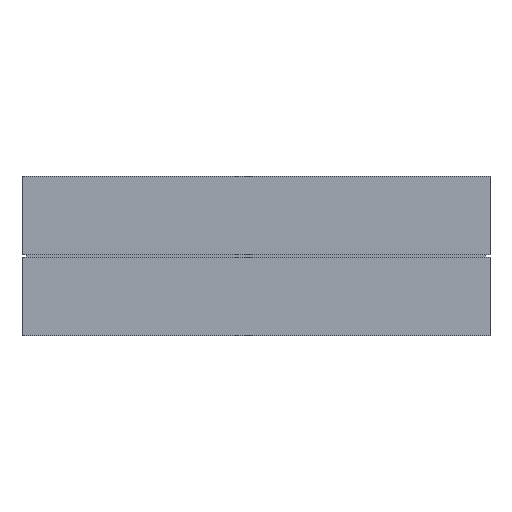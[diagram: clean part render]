
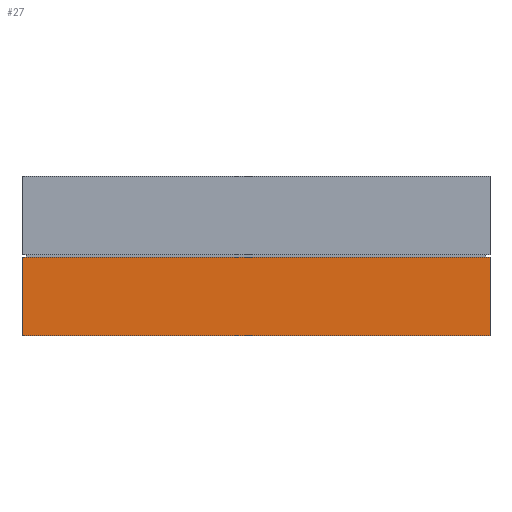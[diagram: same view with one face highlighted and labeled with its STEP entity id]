
A CAD part, front view. The second image highlights one B-rep face of the part: STEP entity #27.
In plain terms, the highlighted planar face has unit normal (0, -1, 0).
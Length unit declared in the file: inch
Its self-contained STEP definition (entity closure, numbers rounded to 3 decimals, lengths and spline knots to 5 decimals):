
#27=ADVANCED_FACE('',(#67),#595,.T.);
#67=FACE_OUTER_BOUND('',#107,.T.);
#107=EDGE_LOOP('',(#172,#173,#174,#175));
#172=ORIENTED_EDGE('',*,*,#353,.T.);
#173=ORIENTED_EDGE('',*,*,#332,.F.);
#174=ORIENTED_EDGE('',*,*,#352,.F.);
#175=ORIENTED_EDGE('',*,*,#348,.F.);
#332=EDGE_CURVE('',#524,#526,#428,.T.);
#348=EDGE_CURVE('',#533,#537,#444,.T.);
#352=EDGE_CURVE('',#537,#524,#448,.T.);
#353=EDGE_CURVE('',#533,#526,#449,.T.);
#428=B_SPLINE_CURVE_WITH_KNOTS('',1,(#831,#832),.UNSPECIFIED.,.F.,.F.,(2,
2),(0.,23.5),.UNSPECIFIED.);
#444=B_SPLINE_CURVE_WITH_KNOTS('',1,(#863,#864),.UNSPECIFIED.,.F.,.F.,(2,
2),(-47.25,-23.75),.UNSPECIFIED.);
#448=B_SPLINE_CURVE_WITH_KNOTS('',1,(#871,#872),.UNSPECIFIED.,.F.,.F.,(2,
2),(200.0625,204.),.UNSPECIFIED.);
#449=B_SPLINE_CURVE_WITH_KNOTS('',1,(#873,#874),.UNSPECIFIED.,.F.,.F.,(2,
2),(359.61737,363.55487),.UNSPECIFIED.);
#524=VERTEX_POINT('',#815);
#526=VERTEX_POINT('',#817);
#533=VERTEX_POINT('',#824);
#537=VERTEX_POINT('',#828);
#595=PLANE('',#726);
#726=AXIS2_PLACEMENT_3D('',#812,#769,$);
#769=DIRECTION('',(0.,-1.,0.));
#812=CARTESIAN_POINT('',(2733.53365,171.9943,228.61029));
#815=CARTESIAN_POINT('',(2733.53365,171.9943,228.61029));
#817=CARTESIAN_POINT('',(2710.03365,171.9943,228.61029));
#824=CARTESIAN_POINT('',(2710.03365,171.9943,232.54779));
#828=CARTESIAN_POINT('',(2733.53365,171.9943,232.54779));
#831=CARTESIAN_POINT('',(2733.53365,171.9943,228.61029));
#832=CARTESIAN_POINT('',(2710.03365,171.9943,228.61029));
#863=CARTESIAN_POINT('',(2710.03365,171.9943,232.54779));
#864=CARTESIAN_POINT('',(2733.53365,171.9943,232.54779));
#871=CARTESIAN_POINT('',(2733.53365,171.9943,232.54779));
#872=CARTESIAN_POINT('',(2733.53365,171.9943,228.61029));
#873=CARTESIAN_POINT('',(2710.03365,171.9943,232.54779));
#874=CARTESIAN_POINT('',(2710.03365,171.9943,228.61029));
